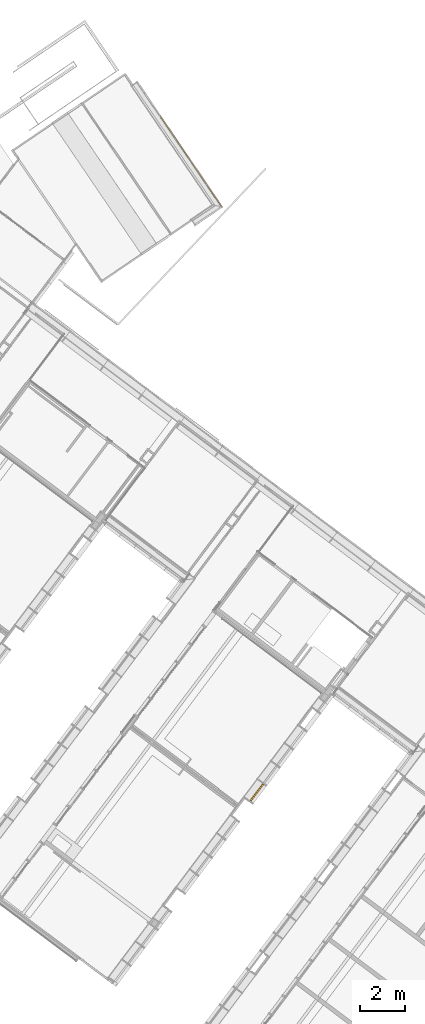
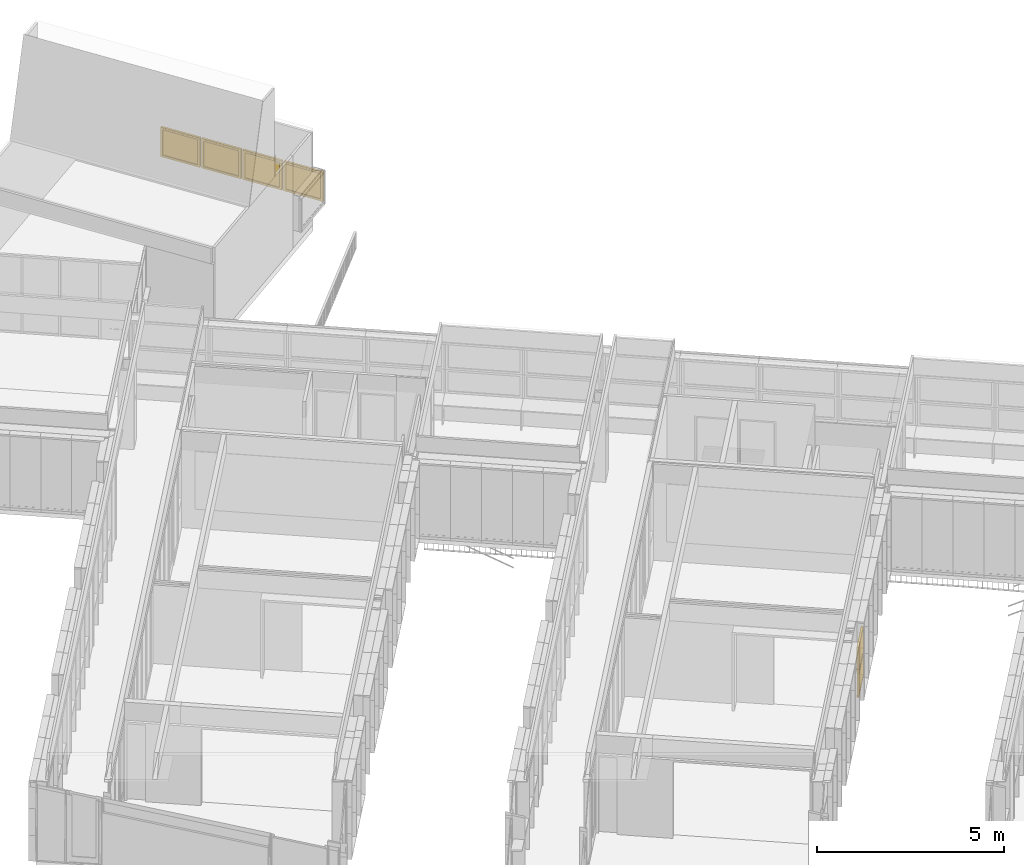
# One storey, part 207 of 243: 6 windows, 2 elements without a shape of their own.
"""IFC2X3 building model written with IfcOpenShell, lengths in metres."""

import ifcopenshell
import ifcopenshell.guid

model = None  # the IFC model being written
_history = None  # IfcOwnerHistory: only IFC2X3 demands one
_inside = {}  # id of a spatial element -> (the spatial element, [elements in it])
_under = {}  # id of a project, library or spatial element -> (it, [spatial elements below it])
_declared = {}  # id of a project -> (the project, [libraries it declares])
_typed = {}  # id of a type object -> (the type object, [elements of that type])
_made_of = {}  # id of a material, layer set ... -> (it, [elements and type objects made of it])


def new_model(schema):
    """Start an empty IFC model of exactly this schema.

    Asked for "IFC4X3", IfcOpenShell would pick the latest addendum, in which some entities
    have other attributes; the version numbers below select the first issue.
    IFC2X3 requires an IfcOwnerHistory on every rooted entity: one is made here for all.
    """
    global model, _history
    if schema == "IFC4X3":
        model = ifcopenshell.file(schema_version=(4, 3, 0, 0))
    else:
        model = ifcopenshell.file(schema=schema)
    _inside.clear()
    _under.clear()
    _declared.clear()
    _typed.clear()
    _made_of.clear()
    _history = None
    if model.schema == "IFC2X3":
        org = make("IfcOrganization", Name="unknown")
        user = make(
            "IfcPersonAndOrganization",
            ThePerson=make("IfcPerson", FamilyName="unknown"),
            TheOrganization=org,
        )
        app = make(
            "IfcApplication",
            ApplicationDeveloper=org,
            Version="unknown",
            ApplicationFullName="unknown",
            ApplicationIdentifier="unknown",
        )
        _history = make(
            "IfcOwnerHistory",
            OwningUser=user,
            OwningApplication=app,
            ChangeAction="ADDED",
            CreationDate=0,
        )
    return model


def make(cls, **values):
    """One entity of the class cls with the attributes given. An attribute that is None is left unset."""
    return model.create_entity(
        cls, **{name: value for name, value in values.items() if value is not None}
    )


def entity(cls, *values):
    """Any entity or typed value of the class cls, its attributes in the order of the schema. None: left unset."""
    e = model.create_entity(cls)
    for i, value in enumerate(values):
        if value is not None:
            e[i] = value
    return e


def rooted(cls, **values):
    """An entity with a GlobalId (a new one), such as an element, a storey or a relation."""
    return make(cls, GlobalId=ifcopenshell.guid.new(), OwnerHistory=_history, **values)


def si_unit(unit_type, name, prefix=None):
    """IfcSIUnit, for example si_unit("LENGTHUNIT", "METRE", prefix="MILLI")."""
    return make("IfcSIUnit", UnitType=unit_type, Prefix=prefix, Name=name)


def converted_unit(unit_type, name, factor, base, dimensions=None, offset=None):
    """IfcConversionBasedUnit, such as the inch: factor (a typed value) times the base unit."""
    return make(
        "IfcConversionBasedUnit"
        if offset is None
        else "IfcConversionBasedUnitWithOffset",
        ConversionOffset=offset,
        Dimensions=None
        if dimensions is None
        else entity("IfcDimensionalExponents", *dimensions),
        UnitType=unit_type,
        Name=name,
        ConversionFactor=make(
            "IfcMeasureWithUnit", ValueComponent=factor, UnitComponent=base
        ),
    )


def derived_unit(unit_type, elements):
    """IfcDerivedUnit: a product of units, each with its exponent."""
    return make(
        "IfcDerivedUnit",
        Elements=[
            make("IfcDerivedUnitElement", Unit=unit, Exponent=power)
            for unit, power in elements
        ],
        UnitType=unit_type,
    )


def assignment(units):
    """IfcUnitAssignment: the units of a project."""
    return None if units is None else make("IfcUnitAssignment", Units=units)


def point(xyz):
    """IfcCartesianPoint."""
    return None if xyz is None else make("IfcCartesianPoint", Coordinates=xyz)


def direction(xyz):
    """IfcDirection."""
    return None if xyz is None else make("IfcDirection", DirectionRatios=xyz)


def frame(location, z_axis=None, x_axis=None):
    """IfcAxis2Placement3D, a coordinate frame: its origin and axes. An axis left out is left unset."""
    return make(
        "IfcAxis2Placement3D",
        Location=point(location),
        Axis=direction(z_axis),
        RefDirection=direction(x_axis),
    )


def origin():
    """The frame at (0, 0, 0) with its axes left unset."""
    return frame((0.0, 0.0, 0.0))


def place(relative_to, where):
    """IfcLocalPlacement: puts the frame where relative to a parent placement (None: the world)."""
    return make(
        "IfcLocalPlacement", PlacementRelTo=relative_to, RelativePlacement=where
    )


def context(
    kind, dimensions, precision=None, world=None, true_north=None, identifier=None
):
    """IfcGeometricRepresentationContext, for example the 3D "Model" context."""
    return make(
        "IfcGeometricRepresentationContext",
        ContextIdentifier=identifier,
        ContextType=kind,
        CoordinateSpaceDimension=dimensions,
        Precision=precision,
        WorldCoordinateSystem=world,
        TrueNorth=true_north,
    )


def subcontext(parent, identifier, kind, view, scale=None):
    """IfcGeometricRepresentationSubContext, for example "Body" below "Model"."""
    return make(
        "IfcGeometricRepresentationSubContext",
        ContextIdentifier=identifier,
        ContextType=kind,
        ParentContext=parent,
        TargetScale=scale,
        TargetView=view,
    )


def project(units=None, contexts=None):
    """IfcProject with its units and contexts."""
    return rooted(
        "IfcProject",
        Name="project",
        RepresentationContexts=contexts,
        UnitsInContext=assignment(units),
    )


def spatial(cls, under=None, at=None, **own):
    """A site, building, storey or space (cls), placed at a placement, below another one or the project."""
    s = rooted(cls, ObjectPlacement=at, **own)
    if under is not None:
        _under.setdefault(under.id(), (under, []))[1].append(s)
    return s


def faces_of(points, faces, orient=None, outer=None):
    """IfcFace entities. A face is a list of loops; a loop is a list of indices into points, from 0.

    orient and outer hold one flag for each loop. By default every Orientation is true, the
    first loop of a face is its IfcFaceOuterBound and the others are IfcFaceBound.
    """
    made = []
    for i, loops in enumerate(faces):
        bounds = []
        for j, loop in enumerate(loops):
            is_outer = j == 0 if outer is None else outer[i][j]
            bounds.append(
                make(
                    "IfcFaceOuterBound" if is_outer else "IfcFaceBound",
                    Bound=make("IfcPolyLoop", Polygon=[points[k] for k in loop]),
                    Orientation=True if orient is None else orient[i][j],
                )
            )
        made.append(make("IfcFace", Bounds=bounds))
    return made


def faceted_brep(points, faces, orient=None, outer=None, voids=None):
    """IfcFacetedBrep: a solid bounded by flat faces; with voids (closed shells), ...WithVoids."""
    shared = [point(p) for p in points]
    hull = make("IfcClosedShell", CfsFaces=faces_of(shared, faces, orient, outer))
    if voids is None:
        return make("IfcFacetedBrep", Outer=hull)
    return make(
        "IfcFacetedBrepWithVoids",
        Outer=hull,
        Voids=[
            make(cls, CfsFaces=faces_of(shared, fs, o, b)) for cls, fs, o, b in voids
        ],
    )


def shape(context_of_items, identifier, shape_type, items):
    """IfcShapeRepresentation: the items that make up one representation, for example the "Body"."""
    return make(
        "IfcShapeRepresentation",
        ContextOfItems=context_of_items,
        RepresentationIdentifier=identifier,
        RepresentationType=shape_type,
        Items=items,
    )


def source(mapping_origin, context_of_items, identifier, shape_type, items):
    """IfcRepresentationMap: a shape defined once, which mapped items show again and again."""
    return make(
        "IfcRepresentationMap",
        MappingOrigin=mapping_origin,
        MappedRepresentation=shape(context_of_items, identifier, shape_type, items),
    )


def transform(
    local_origin,
    x_axis=None,
    y_axis=None,
    z_axis=None,
    scale=None,
    scale2=None,
    scale3=None,
    uniform=True,
):
    """IfcCartesianTransformationOperator3D, or its non-uniform kind. x_axis, y_axis, z_axis: its Axis1, 2, 3."""
    if uniform:
        return make(
            "IfcCartesianTransformationOperator3D",
            Axis1=direction(x_axis),
            Axis2=direction(y_axis),
            LocalOrigin=point(local_origin),
            Scale=scale,
            Axis3=direction(z_axis),
        )
    return make(
        "IfcCartesianTransformationOperator3DnonUniform",
        Axis1=direction(x_axis),
        Axis2=direction(y_axis),
        LocalOrigin=point(local_origin),
        Scale=scale,
        Axis3=direction(z_axis),
        Scale2=scale2,
        Scale3=scale3,
    )


def mapped(mapping_source, mapping_target):
    """IfcMappedItem: shows the shape of a source again, moved by a transform."""
    return make(
        "IfcMappedItem", MappingSource=mapping_source, MappingTarget=mapping_target
    )


def material(Name=None, Category=None):
    """IfcMaterial."""
    return make("IfcMaterial", Name=Name, Category=Category)


def material_list(materials):
    """IfcMaterialList."""
    return make("IfcMaterialList", Materials=materials)


def made_of(thing, what):
    """Note that an element or type object is made of a material, layer set ...; save() writes the relation."""
    if what is not None:
        _made_of.setdefault(what.id(), (what, []))[1].append(thing)
    return thing


def type_object(cls, material=None, **own):
    """A type object (cls), such as IfcWallType, which elements share."""
    return made_of(rooted(cls, **own), material)


def type_shapes(of_type, sources):
    """Give a type object the sources (RepresentationMaps) that its elements show as mapped items."""
    of_type.RepresentationMaps = sources


def element(
    cls,
    number,
    at=None,
    inside=None,
    cuts=None,
    type_object=None,
    material=None,
    context=None,
    identifier="Body",
    shape_type=None,
    held_by="IfcProductDefinitionShape",
    body=None,
    shapes=None,
    **own,
):
    """One element of the class cls, such as IfcWall. Its Tag is "e" and its number.

    at: its placement. inside: the storey or other place that contains it. cuts: it is an
    opening in that element (IfcRelVoidsElement). A single representation is given by context,
    identifier, shape_type and body (its items); several are given by shapes. held_by: the class
    of the entity that holds the representations. save() writes the other relations.
    """
    e = rooted(cls, Tag="e%d" % number, ObjectPlacement=at, **own)
    if body is not None:
        shapes = [shape(context, identifier, shape_type, body)]
    if shapes is not None:
        e.Representation = make(held_by, Representations=shapes)
    if inside is not None:
        _inside.setdefault(inside.id(), (inside, []))[1].append(e)
    if cuts is not None:
        rooted(
            "IfcRelVoidsElement", RelatingBuildingElement=cuts, RelatedOpeningElement=e
        )
    if type_object is not None:
        _typed.setdefault(type_object.id(), (type_object, []))[1].append(e)
    return made_of(e, material)


def aggregate(whole, parts):
    """IfcRelAggregates: a whole, such as a stair, and the parts it consists of."""
    return rooted("IfcRelAggregates", RelatingObject=whole, RelatedObjects=parts)


def save(model, path):
    """Write the relations noted so far, then the file.

    IfcRelAggregates (storeys below a building ...), IfcRelContainedInSpatialStructure (elements
    in a storey), IfcRelDefinesByType, IfcRelAssociatesMaterial and IfcRelDeclares: one each for
    every whole, place, type object, material and project.
    """
    for whole, parts in _under.values():
        aggregate(whole, parts)
    for where, things in _inside.values():
        rooted(
            "IfcRelContainedInSpatialStructure",
            RelatedElements=things,
            RelatingStructure=where,
        )
    for kind, things in _typed.values():
        rooted("IfcRelDefinesByType", RelatedObjects=things, RelatingType=kind)
    for what, things in _made_of.values():
        rooted("IfcRelAssociatesMaterial", RelatedObjects=things, RelatingMaterial=what)
    for by, libraries in _declared.values():
        rooted("IfcRelDeclares", RelatingContext=by, RelatedDefinitions=libraries)
    model.write(path)


model = new_model("IFC2X3")

# Units and contexts
model_context = context("Model", 3, precision=1e-05, world=origin(), true_north=direction((6.123031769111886e-17, 1.0)))
body_context = subcontext(model_context, "Body", "Model", "MODEL_VIEW")
ifc_project = project(units=[si_unit("LENGTHUNIT", "METRE"), si_unit("AREAUNIT", "SQUARE_METRE"), si_unit("VOLUMEUNIT", "CUBIC_METRE"), converted_unit("PLANEANGLEUNIT", "DEGREE", entity("IfcRatioMeasure", 0.017453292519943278), si_unit("PLANEANGLEUNIT", "RADIAN"), dimensions=[0, 0, 0, 0, 0, 0, 0]), si_unit("MASSUNIT", "GRAM", prefix="KILO"), derived_unit("MASSDENSITYUNIT", [(si_unit("MASSUNIT", "GRAM", prefix="KILO"), 1), (si_unit("LENGTHUNIT", "METRE"), -3)]), derived_unit("IONCONCENTRATIONUNIT", [(si_unit("MASSUNIT", "GRAM", prefix="KILO"), 1), (si_unit("LENGTHUNIT", "METRE"), -3)]), derived_unit("MOMENTOFINERTIAUNIT", [(si_unit("LENGTHUNIT", "METRE"), 4)]), si_unit("TIMEUNIT", "SECOND"), si_unit("FREQUENCYUNIT", "HERTZ"), si_unit("THERMODYNAMICTEMPERATUREUNIT", "DEGREE_CELSIUS"), derived_unit("THERMALTRANSMITTANCEUNIT", [(si_unit("MASSUNIT", "GRAM", prefix="KILO"), 1), (si_unit("THERMODYNAMICTEMPERATUREUNIT", "KELVIN"), -1), (si_unit("TIMEUNIT", "SECOND"), -3)]), derived_unit("THERMALCONDUCTANCEUNIT", [(si_unit("MASSUNIT", "GRAM", prefix="KILO"), 1), (si_unit("THERMODYNAMICTEMPERATUREUNIT", "KELVIN"), -1), (si_unit("TIMEUNIT", "SECOND"), -3), (si_unit("LENGTHUNIT", "METRE"), 1)]), derived_unit("VOLUMETRICFLOWRATEUNIT", [(si_unit("LENGTHUNIT", "METRE"), 3), (si_unit("TIMEUNIT", "SECOND"), -1)]), derived_unit("MASSFLOWRATEUNIT", [(si_unit("MASSUNIT", "GRAM", prefix="KILO"), 1), (si_unit("TIMEUNIT", "SECOND"), -1)]), derived_unit("ROTATIONALFREQUENCYUNIT", [(si_unit("TIMEUNIT", "SECOND"), -1)]), si_unit("ELECTRICCURRENTUNIT", "AMPERE"), si_unit("ELECTRICVOLTAGEUNIT", "VOLT"), si_unit("POWERUNIT", "WATT"), si_unit("FORCEUNIT", "NEWTON", prefix="KILO"), si_unit("ILLUMINANCEUNIT", "LUX"), si_unit("LUMINOUSFLUXUNIT", "LUMEN"), si_unit("LUMINOUSINTENSITYUNIT", "CANDELA"), derived_unit("USERDEFINED", [(si_unit("MASSUNIT", "GRAM", prefix="KILO"), -1), (si_unit("LENGTHUNIT", "METRE"), -2), (si_unit("TIMEUNIT", "SECOND"), 3), (si_unit("LUMINOUSFLUXUNIT", "LUMEN"), 1)]), derived_unit("USERDEFINED", [(si_unit("MASSUNIT", "GRAM", prefix="KILO"), 1), (si_unit("TIMEUNIT", "SECOND"), -3), (si_unit("LENGTHUNIT", "METRE"), 3), (si_unit("ELECTRICCURRENTUNIT", "AMPERE"), -2)]), derived_unit("SOUNDPOWERUNIT", [(si_unit("MASSUNIT", "GRAM", prefix="KILO"), 1), (si_unit("TIMEUNIT", "SECOND"), -3), (si_unit("LENGTHUNIT", "METRE"), 2)]), derived_unit("SOUNDPRESSUREUNIT", [(si_unit("MASSUNIT", "GRAM", prefix="KILO"), 1), (si_unit("LENGTHUNIT", "METRE"), -1), (si_unit("TIMEUNIT", "SECOND"), -2)]), derived_unit("LINEARVELOCITYUNIT", [(si_unit("LENGTHUNIT", "METRE"), 1), (si_unit("TIMEUNIT", "SECOND"), -1)]), si_unit("PRESSUREUNIT", "PASCAL"), derived_unit("USERDEFINED", [(si_unit("MASSUNIT", "GRAM", prefix="KILO"), 1), (si_unit("LENGTHUNIT", "METRE"), -2), (si_unit("TIMEUNIT", "SECOND"), -2)]), derived_unit("LINEARFORCEUNIT", [(si_unit("MASSUNIT", "GRAM", prefix="KILO"), 1), (si_unit("TIMEUNIT", "SECOND"), -2)]), derived_unit("PLANARFORCEUNIT", [(si_unit("MASSUNIT", "GRAM", prefix="KILO"), 1), (si_unit("LENGTHUNIT", "METRE"), -1), (si_unit("TIMEUNIT", "SECOND"), -2)]), derived_unit("SPECIFICHEATCAPACITYUNIT", [(si_unit("THERMODYNAMICTEMPERATUREUNIT", "KELVIN"), -1), (si_unit("LENGTHUNIT", "METRE"), 2), (si_unit("TIMEUNIT", "SECOND"), -2)]), derived_unit("HEATINGVALUEUNIT", [(si_unit("LENGTHUNIT", "METRE"), 2), (si_unit("TIMEUNIT", "SECOND"), -2)]), derived_unit("VAPORPERMEABILITYUNIT", [(si_unit("LENGTHUNIT", "METRE"), -1), (si_unit("TIMEUNIT", "SECOND"), 1)]), derived_unit("DYNAMICVISCOSITYUNIT", [(si_unit("MASSUNIT", "GRAM", prefix="KILO"), 1), (si_unit("TIMEUNIT", "SECOND"), -1), (si_unit("LENGTHUNIT", "METRE"), -1)]), derived_unit("THERMALEXPANSIONCOEFFICIENTUNIT", [(si_unit("THERMODYNAMICTEMPERATUREUNIT", "KELVIN"), -1)]), derived_unit("MODULUSOFELASTICITYUNIT", [(si_unit("MASSUNIT", "GRAM", prefix="KILO"), 1), (si_unit("LENGTHUNIT", "METRE"), -1), (si_unit("TIMEUNIT", "SECOND"), -2)]), derived_unit("ISOTHERMALMOISTURECAPACITYUNIT", [(si_unit("LENGTHUNIT", "METRE"), 3), (si_unit("MASSUNIT", "GRAM", prefix="KILO"), -1)]), derived_unit("MOISTUREDIFFUSIVITYUNIT", [(si_unit("TIMEUNIT", "SECOND"), -1), (si_unit("LENGTHUNIT", "METRE"), 2)])], contexts=[model_context])

# Site, building, storey
site_placement = place(None, frame((0.0, 0.0, 235.0), z_axis=(0.0, 0.0, 1.0), x_axis=(-0.7996477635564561, 0.6004693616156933, 0.0)))
site = spatial("IfcSite", under=ifc_project, at=site_placement, Name="Default", CompositionType="ELEMENT")
building_placement = place(site_placement, origin())
building = spatial("IfcBuilding", under=site, at=building_placement, CompositionType="ELEMENT")
storey_placement = place(building_placement, origin())
storey = spatial("IfcBuildingStorey", under=building, at=storey_placement, Name="P0- Escola", CompositionType="ELEMENT", Elevation=0.0)

# Curtain wall, windows
curtain_wall_type_1 = type_object("IfcCurtainWallType", Name="Muro cortina:MC- EXT- MC2", PredefinedType="NOTDEFINED")
curtain_wall_1_placement = place(storey_placement, origin())
curtain_wall_1 = element("IfcCurtainWall", 1, at=curtain_wall_1_placement, inside=storey, type_object=curtain_wall_type_1, Name="Muro cortina:MC- EXT- MC2", ObjectType="Muro cortina:MC- EXT- MC2")
ifc_material_1 = material(Name="_Vidre")
ifc_material_2 = material(Name="_Alumini- T1- Perfil")
ifc_material_list = material_list([ifc_material_1, ifc_material_2])
window_style_1 = type_object("IfcWindowStyle", Name="MC- Alu- Conjunt vidre fix- 62x60 cm:MC- Alu- Conjunt vidre fix- 62x60 cm", ConstructionType="NOTDEFINED", OperationType="NOTDEFINED", ParameterTakesPrecedence=False, Sizeable=False, material=ifc_material_list)
shared_shape_1 = source(origin(), body_context, "Body", "Brep", [
    faceted_brep([(0.4361932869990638, -0.007600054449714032, 0.048806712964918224), (0.4361932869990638, -0.03160022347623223, 0.048806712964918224), (-0.4361932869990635, -0.03160022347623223, 0.048806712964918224), (-0.4361932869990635, -0.007600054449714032, 0.048806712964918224), (0.4361932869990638, -0.007600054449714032, 0.7387000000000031), (-0.4361932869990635, -0.007600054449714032, 0.7387000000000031), (-0.4361932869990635, -0.03160022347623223, 0.7387000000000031), (0.4361932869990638, -0.03160022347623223, 0.7387000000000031)], [[[0, 1, 2, 3]], [[4, 0, 3, 5]], [[5, 3, 2, 6]], [[6, 2, 1, 7]], [[7, 1, 0, 4]], [[4, 5, 6, 7]]]),
    faceted_brep([(0.48499999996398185, -0.05999999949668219, 0.7877000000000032), (0.48499999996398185, -0.05999999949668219, 0.0), (0.48499999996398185, 0.0, 0.0), (0.48499999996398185, 0.0, 0.787700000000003), (-0.48499999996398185, 0.0, 0.7877000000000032), (-0.48499999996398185, 0.0, 0.0), (0.4221931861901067, 0.0, 0.7248931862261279), (-0.42219318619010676, 0.0, 0.724893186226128), (-0.4221931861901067, 0.0, 0.0628068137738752), (0.4221931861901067, 0.0, 0.06280681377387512), (-0.48499999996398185, -0.05999999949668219, 0.0), (-0.48499999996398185, -0.05999999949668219, 0.7877000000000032), (-0.42219603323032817, -0.05999999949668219, 0.7248960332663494), (0.42219603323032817, -0.05999999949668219, 0.7248960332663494), (0.42219603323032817, -0.05999999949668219, 0.0628039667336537), (-0.42219603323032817, -0.05999999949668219, 0.0628039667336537), (0.4221960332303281, -0.03160022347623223, 0.7248960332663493), (0.42219603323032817, -0.03160022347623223, 0.0628039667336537), (-0.42219603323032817, -0.03160022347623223, 0.06280396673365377), (-0.42219603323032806, -0.03160022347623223, 0.7248960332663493), (-0.43619328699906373, -0.03160022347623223, 0.738893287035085), (0.43619328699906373, -0.03160022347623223, 0.738893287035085), (0.43619328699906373, -0.03160022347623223, 0.048806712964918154), (-0.43619328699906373, -0.03160022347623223, 0.04880671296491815), (0.43619328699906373, -0.007600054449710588, 0.738893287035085), (0.43619328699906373, -0.007600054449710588, 0.04880671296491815), (-0.43619328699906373, -0.007600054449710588, 0.048806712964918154), (-0.43619328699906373, -0.007600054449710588, 0.738893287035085), (-0.42219318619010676, -0.007600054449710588, 0.724893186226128), (0.42219318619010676, -0.007600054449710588, 0.724893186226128), (0.42219318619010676, -0.007600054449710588, 0.06280681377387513), (-0.42219318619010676, -0.007600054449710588, 0.06280681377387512)], [[[0, 1, 2, 3]], [[4, 3, 2, 5], [6, 7, 8, 9]], [[1, 10, 5, 2]], [[0, 11, 10, 1], [12, 13, 14, 15]], [[16, 17, 14, 13]], [[17, 18, 15, 14]], [[16, 19, 18, 17], [20, 21, 22, 23]], [[24, 25, 22, 21]], [[25, 26, 23, 22]], [[24, 27, 26, 25], [28, 29, 30, 31]], [[6, 9, 30, 29]], [[9, 8, 31, 30]], [[10, 11, 4, 5]], [[18, 19, 12, 15]], [[26, 27, 20, 23]], [[8, 7, 28, 31]], [[11, 0, 3, 4]], [[19, 16, 13, 12]], [[27, 24, 21, 20]], [[7, 6, 29, 28]]], outer=[[True], [True, False], [True], [True, False], [True], [True], [False, True], [True], [True], [True, False], [True], [True], [True], [True], [True], [True], [True], [True], [True], [True]]),
])
type_shapes(window_style_1, [shared_shape_1])
window_1_placement = place(curtain_wall_1_placement, frame((41.04514768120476, -30.915191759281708, 0.03229999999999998), z_axis=(0.0, 0.0, 1.0), x_axis=(0.0, 1.0, 0.0)))
window_1 = element("IfcWindow", 2, at=window_1_placement, type_object=window_style_1, material=ifc_material_list, Name="MC- Alu- Conjunt vidre fix- 62x60 cm:MC- Alu- Conjunt vidre fix- 62x60 cm", ObjectType="MC- Alu- Conjunt vidre fix- 62x60 cm:MC- Alu- Conjunt vidre fix- 62x60 cm", OverallHeight=0.7877000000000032, OverallWidth=0.9699999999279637, context=body_context, shape_type="MappedRepresentation", body=[
    mapped(shared_shape_1, transform((0.0, 0.0, 0.0), scale=1.0)),
])
window_style_2 = type_object("IfcWindowStyle", Name="MC- Alu- Conjunt finestra basculant- 68x68 cm:MC- Alu- Conjunt finestra basculant- 68x68 cm", ConstructionType="NOTDEFINED", OperationType="NOTDEFINED", ParameterTakesPrecedence=False, Sizeable=False, material=ifc_material_list)
shared_shape_2 = source(origin(), body_context, "Body", "Brep", [
    faceted_brep([(0.43291170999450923, -0.03559830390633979, 0.051999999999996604), (-0.43291170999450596, -0.03559830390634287, 0.051999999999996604), (-0.43291170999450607, -0.011598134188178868, 0.051999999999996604), (0.43291170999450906, -0.011598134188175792, 0.051999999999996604), (0.43291170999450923, -0.035598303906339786, 0.8228027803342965), (0.43291170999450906, -0.011598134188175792, 0.8228027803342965), (-0.43291170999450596, -0.011598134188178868, 0.8228027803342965), (-0.43291170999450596, -0.03559830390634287, 0.8228027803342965)], [[[0, 1, 2, 3]], [[4, 0, 3, 5]], [[5, 3, 2, 6]], [[6, 2, 1, 7]], [[7, 1, 0, 4]], [[4, 5, 6, 7]]]),
    faceted_brep([(-0.4172108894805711, -0.009998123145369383, 0.8071019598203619), (-0.4172108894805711, -0.00999812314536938, 0.06789804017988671), (-0.4172108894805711, -0.007998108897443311, 0.06789804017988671), (-0.4172108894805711, -0.007998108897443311, 0.8071019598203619), (-0.44610892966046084, -0.007998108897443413, 0.8360000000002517), (0.44610892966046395, -0.007998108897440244, 0.8360000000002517), (0.44610892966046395, -0.007998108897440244, 0.03899999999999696), (-0.44610892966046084, -0.007998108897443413, 0.03899999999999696), (0.4172108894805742, -0.007998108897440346, 0.8071019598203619), (0.4172108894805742, -0.007998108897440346, 0.06789804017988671), (0.4172108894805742, -0.009998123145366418, 0.06789804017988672), (0.4172108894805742, -0.009998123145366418, 0.8071019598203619), (0.4329117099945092, -0.00999812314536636, 0.8228027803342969), (-0.43291170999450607, -0.009998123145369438, 0.8228027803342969), (-0.43291170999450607, -0.009998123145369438, 0.05219721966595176), (0.4329117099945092, -0.00999812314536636, 0.052197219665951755), (-0.4329117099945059, -0.04079986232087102, 0.8228027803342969), (-0.4329117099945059, -0.04079986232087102, 0.052197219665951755), (0.4329117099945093, -0.04079986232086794, 0.05219721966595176), (0.4329117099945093, -0.04079986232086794, 0.8228027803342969), (0.41721088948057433, -0.040799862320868, 0.8071019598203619), (-0.41721088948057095, -0.04079986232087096, 0.8071019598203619), (-0.41721088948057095, -0.04079986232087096, 0.06789804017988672), (0.41721088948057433, -0.040799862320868, 0.06789804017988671), (-0.4172108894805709, -0.06800005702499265, 0.8071019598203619), (-0.4172108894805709, -0.06800005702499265, 0.06789804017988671), (0.4172108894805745, -0.0680000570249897, 0.06789804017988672), (0.4172108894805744, -0.0680000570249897, 0.8071019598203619), (0.4636128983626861, -0.06800005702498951, 0.8535039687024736), (-0.4636128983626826, -0.06800005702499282, 0.8535039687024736), (-0.4636128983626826, -0.06800005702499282, 0.021496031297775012), (0.4636128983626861, -0.06800005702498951, 0.021496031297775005), (-0.4636128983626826, -0.0645000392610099, 0.8535039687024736), (-0.4636128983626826, -0.06450003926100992, 0.021496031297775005), (0.4636128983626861, -0.06450003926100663, 0.021496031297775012), (0.4636128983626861, -0.06450003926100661, 0.8535039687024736), (0.44610892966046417, -0.06450003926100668, 0.8360000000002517), (-0.4461089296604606, -0.06450003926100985, 0.8360000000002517), (-0.4461089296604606, -0.06450003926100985, 0.03899999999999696), (0.44610892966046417, -0.06450003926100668, 0.038999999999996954)], [[[0, 1, 2, 3]], [[4, 5, 6, 7], [8, 3, 2, 9]], [[1, 10, 9, 2]], [[0, 11, 10, 1], [12, 13, 14, 15]], [[16, 17, 14, 13]], [[17, 18, 15, 14]], [[16, 19, 18, 17], [20, 21, 22, 23]], [[24, 25, 22, 21]], [[25, 26, 23, 22]], [[24, 27, 26, 25], [28, 29, 30, 31]], [[32, 33, 30, 29]], [[33, 34, 31, 30]], [[32, 35, 34, 33], [36, 37, 38, 39]], [[4, 7, 38, 37]], [[7, 6, 39, 38]], [[10, 11, 8, 9]], [[18, 19, 12, 15]], [[26, 27, 20, 23]], [[34, 35, 28, 31]], [[6, 5, 36, 39]], [[11, 0, 3, 8]], [[19, 16, 13, 12]], [[27, 24, 21, 20]], [[35, 32, 29, 28]], [[5, 4, 37, 36]]], outer=[[True], [True, False], [True], [False, True], [True], [True], [True, False], [True], [True], [False, True], [True], [True], [True, False], [True], [True], [True], [True], [True], [True], [True], [True], [True], [True], [True], [True]]),
    faceted_brep([(0.42219318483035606, 0.0, 0.8121931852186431), (0.42219318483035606, 0.0, 0.06280681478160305), (0.42219318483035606, -0.0040000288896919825, 0.06280681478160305), (0.42219318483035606, -0.0040000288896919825, 0.8121931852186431), (-0.42219318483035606, -0.0040000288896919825, 0.8121931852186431), (-0.42219318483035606, -0.0040000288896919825, 0.06280681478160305), (0.4575998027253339, -0.0040000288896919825, 0.8475998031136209), (-0.4575998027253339, -0.0040000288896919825, 0.8475998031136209), (-0.4575998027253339, -0.0040000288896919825, 0.027400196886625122), (0.4575998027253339, -0.0040000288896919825, 0.02740019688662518), (-0.42219318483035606, 0.0, 0.06280681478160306), (-0.42219318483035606, 0.0, 0.8121931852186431), (-0.48499999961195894, 0.0, 0.875000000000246), (0.48499999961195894, 0.0, 0.875000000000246), (0.48499999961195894, 0.0, 0.0), (-0.48499999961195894, 0.0, 0.0), (0.48499999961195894, -0.05999999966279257, 0.875000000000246), (0.48499999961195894, -0.05999999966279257, 0.0), (-0.48499999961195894, -0.05999999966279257, 0.0), (-0.48499999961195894, -0.05999999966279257, 0.875000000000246), (-0.4575998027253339, -0.05999999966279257, 0.8475998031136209), (0.4575998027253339, -0.05999999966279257, 0.8475998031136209), (0.4575998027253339, -0.05999999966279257, 0.027400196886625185), (-0.4575998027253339, -0.05999999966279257, 0.02740019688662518)], [[[0, 1, 2, 3]], [[4, 3, 2, 5], [6, 7, 8, 9]], [[1, 10, 5, 2]], [[0, 11, 10, 1], [12, 13, 14, 15]], [[16, 17, 14, 13]], [[17, 18, 15, 14]], [[16, 19, 18, 17], [20, 21, 22, 23]], [[6, 9, 22, 21]], [[9, 8, 23, 22]], [[10, 11, 4, 5]], [[18, 19, 12, 15]], [[8, 7, 20, 23]], [[11, 0, 3, 4]], [[19, 16, 13, 12]], [[7, 6, 21, 20]]], outer=[[True], [False, True], [True], [False, True], [True], [True], [True, False], [True], [True], [True], [True], [True], [True], [True], [True]]),
])
type_shapes(window_style_2, [shared_shape_2])
window_2_placement = place(curtain_wall_1_placement, frame((41.04514768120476, -30.915191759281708, 0.8200000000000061), z_axis=(0.0, 0.0, 1.0), x_axis=(0.0, 1.0, 0.0)))
window_2 = element("IfcWindow", 3, at=window_2_placement, type_object=window_style_2, material=ifc_material_list, Name="MC- Alu- Conjunt finestra basculant- 68x68 cm:MC- Alu- Conjunt finestra basculant- 68x68 cm", ObjectType="MC- Alu- Conjunt finestra basculant- 68x68 cm:MC- Alu- Conjunt finestra basculant- 68x68 cm", OverallHeight=0.8750000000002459, OverallWidth=0.9699999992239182, context=body_context, shape_type="MappedRepresentation", body=[
    mapped(shared_shape_2, transform((0.0, 0.0, 0.0), scale=1.0)),
])
aggregate(curtain_wall_1, [window_1, window_2])

curtain_wall_type_2 = type_object("IfcCurtainWallType", Name="Muro cortina:MC- EXT- MC7", PredefinedType="NOTDEFINED")
curtain_wall_2_placement = place(storey_placement, origin())
curtain_wall_2 = element("IfcCurtainWall", 4, at=curtain_wall_2_placement, inside=storey, type_object=curtain_wall_type_2, Name="Muro cortina:MC- EXT- MC7", ObjectType="Muro cortina:MC- EXT- MC7")
window_style_3 = type_object("IfcWindowStyle", Name="MC- Alu- Conjunt finestra basculant- 68x68 cm:MC- Alu- Conjunt finestra basculant- 68x68 cm", ConstructionType="NOTDEFINED", OperationType="NOTDEFINED", ParameterTakesPrecedence=False, Sizeable=False, material=ifc_material_list)
shared_shape_3 = source(origin(), body_context, "Body", "Brep", [
    faceted_brep([(0.5319117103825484, -0.03559830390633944, 0.051999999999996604), (-0.531911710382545, -0.035598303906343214, 0.051999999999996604), (-0.5319117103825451, -0.011598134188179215, 0.051999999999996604), (0.5319117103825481, -0.011598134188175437, 0.051999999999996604), (0.5319117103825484, -0.03559830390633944, 0.9153027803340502), (0.5319117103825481, -0.011598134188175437, 0.9153027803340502), (-0.5319117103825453, -0.011598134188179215, 0.9153027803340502), (-0.531911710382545, -0.035598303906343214, 0.9153027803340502)], [[[0, 1, 2, 3]], [[4, 0, 3, 5]], [[5, 3, 2, 6]], [[6, 2, 1, 7]], [[7, 1, 0, 4]], [[4, 5, 6, 7]]]),
    faceted_brep([(-0.5162108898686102, -0.009998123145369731, 0.8996019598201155), (-0.5162108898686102, -0.009998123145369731, 0.06789804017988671), (-0.5162108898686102, -0.007998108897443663, 0.06789804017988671), (-0.5162108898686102, -0.007998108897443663, 0.8996019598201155), (-0.5451089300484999, -0.007998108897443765, 0.9285000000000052), (0.545108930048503, -0.007998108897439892, 0.9285000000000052), (0.545108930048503, -0.007998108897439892, 0.03899999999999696), (-0.5451089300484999, -0.007998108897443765, 0.03899999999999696), (0.5162108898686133, -0.007998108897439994, 0.8996019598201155), (0.5162108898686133, -0.007998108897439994, 0.06789804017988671), (0.5162108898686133, -0.009998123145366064, 0.06789804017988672), (0.5162108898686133, -0.009998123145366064, 0.8996019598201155), (0.5319117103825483, -0.00999812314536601, 0.9153027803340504), (-0.5319117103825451, -0.009998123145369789, 0.9153027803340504), (-0.5319117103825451, -0.009998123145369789, 0.05219721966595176), (0.5319117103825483, -0.00999812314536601, 0.052197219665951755), (-0.531911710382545, -0.04079986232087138, 0.9153027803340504), (-0.5319117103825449, -0.04079986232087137, 0.052197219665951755), (0.5319117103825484, -0.040799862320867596, 0.05219721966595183), (0.5319117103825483, -0.040799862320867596, 0.9153027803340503), (0.5162108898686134, -0.040799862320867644, 0.8996019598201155), (-0.5162108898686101, -0.040799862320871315, 0.8996019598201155), (-0.5162108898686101, -0.040799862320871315, 0.06789804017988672), (0.5162108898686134, -0.040799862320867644, 0.06789804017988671), (-0.51621088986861, -0.06800005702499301, 0.8996019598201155), (-0.51621088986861, -0.06800005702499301, 0.06789804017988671), (0.5162108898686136, -0.06800005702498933, 0.06789804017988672), (0.5162108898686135, -0.06800005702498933, 0.8996019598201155), (0.5626128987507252, -0.06800005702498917, 0.9460039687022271), (-0.5626128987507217, -0.06800005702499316, 0.9460039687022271), (-0.5626128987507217, -0.06800005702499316, 0.021496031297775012), (0.5626128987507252, -0.06800005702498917, 0.021496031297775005), (-0.5626128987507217, -0.06450003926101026, 0.9460039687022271), (-0.5626128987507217, -0.06450003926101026, 0.021496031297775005), (0.5626128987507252, -0.06450003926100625, 0.02149603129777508), (0.5626128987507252, -0.06450003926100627, 0.9460039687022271), (0.5451089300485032, -0.06450003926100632, 0.9285000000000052), (-0.5451089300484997, -0.0645000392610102, 0.9285000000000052), (-0.5451089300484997, -0.0645000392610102, 0.03899999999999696), (0.5451089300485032, -0.06450003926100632, 0.038999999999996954)], [[[0, 1, 2, 3]], [[4, 5, 6, 7], [8, 3, 2, 9]], [[1, 10, 9, 2]], [[0, 11, 10, 1], [12, 13, 14, 15]], [[16, 17, 14, 13]], [[17, 18, 15, 14]], [[16, 19, 18, 17], [20, 21, 22, 23]], [[24, 25, 22, 21]], [[25, 26, 23, 22]], [[24, 27, 26, 25], [28, 29, 30, 31]], [[32, 33, 30, 29]], [[33, 34, 31, 30]], [[32, 35, 34, 33], [36, 37, 38, 39]], [[4, 7, 38, 37]], [[7, 6, 39, 38]], [[10, 11, 8, 9]], [[18, 19, 12, 15]], [[26, 27, 20, 23]], [[34, 35, 28, 31]], [[6, 5, 36, 39]], [[11, 0, 3, 8]], [[19, 16, 13, 12]], [[27, 24, 21, 20]], [[35, 32, 29, 28]], [[5, 4, 37, 36]]], outer=[[True], [True, False], [True], [False, True], [True], [True], [True, False], [True], [True], [False, True], [True], [True], [True, False], [True], [True], [True], [True], [True], [True], [True], [True], [True], [True], [True], [True]]),
    faceted_brep([(0.5211931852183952, 0.0, 0.9046931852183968), (0.5211931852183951, 0.0, 0.06280681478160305), (0.5211931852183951, -0.0040000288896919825, 0.06280681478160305), (0.5211931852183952, -0.0040000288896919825, 0.9046931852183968), (-0.5211931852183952, -0.0040000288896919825, 0.9046931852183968), (-0.5211931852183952, -0.0040000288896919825, 0.06280681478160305), (0.5565998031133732, -0.0040000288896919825, 0.9400998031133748), (-0.556599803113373, -0.0040000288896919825, 0.9400998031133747), (-0.5565998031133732, -0.0040000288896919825, 0.027400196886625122), (0.556599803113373, -0.0040000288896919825, 0.02740019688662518), (-0.5211931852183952, 0.0, 0.06280681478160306), (-0.5211931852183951, 0.0, 0.9046931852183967), (-0.5839999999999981, 0.0, 0.9674999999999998), (0.5839999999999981, 0.0, 0.9674999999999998), (0.5839999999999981, 0.0, 0.0), (-0.5839999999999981, 0.0, 0.0), (0.5839999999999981, -0.05999999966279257, 0.9674999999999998), (0.583999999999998, -0.05999999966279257, 0.0), (-0.5839999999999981, -0.05999999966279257, 0.0), (-0.583999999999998, -0.05999999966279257, 0.9674999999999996), (-0.556599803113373, -0.05999999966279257, 0.9400998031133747), (0.556599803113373, -0.05999999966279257, 0.9400998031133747), (0.556599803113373, -0.05999999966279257, 0.027400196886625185), (-0.556599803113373, -0.05999999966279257, 0.02740019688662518)], [[[0, 1, 2, 3]], [[4, 3, 2, 5], [6, 7, 8, 9]], [[1, 10, 5, 2]], [[0, 11, 10, 1], [12, 13, 14, 15]], [[16, 17, 14, 13]], [[17, 18, 15, 14]], [[16, 19, 18, 17], [20, 21, 22, 23]], [[6, 9, 22, 21]], [[9, 8, 23, 22]], [[10, 11, 4, 5]], [[18, 19, 12, 15]], [[8, 7, 20, 23]], [[11, 0, 3, 4]], [[19, 16, 13, 12]], [[7, 6, 21, 20]]], outer=[[True], [False, True], [True], [False, True], [True], [True], [True, False], [True], [True], [True], [True], [True], [True], [True], [True]]),
])
type_shapes(window_style_3, [shared_shape_3])
window_3_placement = place(curtain_wall_2_placement, frame((58.47314232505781, -50.98158165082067, 0.685), z_axis=(0.0, 0.0, 1.0), x_axis=(-0.9460037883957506, 0.3241555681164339, 0.0)))
window_3 = element("IfcWindow", 5, at=window_3_placement, type_object=window_style_3, material=ifc_material_list, Name="MC- Alu- Conjunt finestra basculant- 68x68 cm:MC- Alu- Conjunt finestra basculant- 68x68 cm", ObjectType="MC- Alu- Conjunt finestra basculant- 68x68 cm:MC- Alu- Conjunt finestra basculant- 68x68 cm", OverallHeight=0.9674999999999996, OverallWidth=1.1679999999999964, context=body_context, shape_type="MappedRepresentation", body=[
    mapped(shared_shape_3, transform((0.0, 0.0, 0.0), scale=1.0)),
])
window_4_placement = place(curtain_wall_2_placement, frame((59.625374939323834, -51.37640313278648, 0.685), z_axis=(0.0, 0.0, 1.0), x_axis=(-0.9460037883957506, 0.3241555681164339, 0.0)))
window_4 = element("IfcWindow", 6, at=window_4_placement, type_object=window_style_3, material=ifc_material_list, Name="MC- Alu- Conjunt finestra basculant- 68x68 cm:MC- Alu- Conjunt finestra basculant- 68x68 cm", ObjectType="MC- Alu- Conjunt finestra basculant- 68x68 cm:MC- Alu- Conjunt finestra basculant- 68x68 cm", OverallHeight=0.9674999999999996, OverallWidth=1.1679999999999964, context=body_context, shape_type="MappedRepresentation", body=[
    mapped(shared_shape_3, transform((0.0, 0.0, 0.0), scale=1.0)),
])
window_5_placement = place(curtain_wall_2_placement, frame((60.77760755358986, -51.7712246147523, 0.685), z_axis=(0.0, 0.0, 1.0), x_axis=(-0.9460037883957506, 0.3241555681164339, 0.0)))
window_5 = element("IfcWindow", 7, at=window_5_placement, type_object=window_style_3, material=ifc_material_list, Name="MC- Alu- Conjunt finestra basculant- 68x68 cm:MC- Alu- Conjunt finestra basculant- 68x68 cm", ObjectType="MC- Alu- Conjunt finestra basculant- 68x68 cm:MC- Alu- Conjunt finestra basculant- 68x68 cm", OverallHeight=0.9674999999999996, OverallWidth=1.1679999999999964, context=body_context, shape_type="MappedRepresentation", body=[
    mapped(shared_shape_3, transform((0.0, 0.0, 0.0), scale=1.0)),
])
window_6_placement = place(curtain_wall_2_placement, frame((61.929840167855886, -52.16604609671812, 0.685), z_axis=(0.0, 0.0, 1.0), x_axis=(-0.9460037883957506, 0.3241555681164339, 0.0)))
window_6 = element("IfcWindow", 8, at=window_6_placement, type_object=window_style_3, material=ifc_material_list, Name="MC- Alu- Conjunt finestra basculant- 68x68 cm:MC- Alu- Conjunt finestra basculant- 68x68 cm", ObjectType="MC- Alu- Conjunt finestra basculant- 68x68 cm:MC- Alu- Conjunt finestra basculant- 68x68 cm", OverallHeight=0.9674999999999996, OverallWidth=1.1679999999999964, context=body_context, shape_type="MappedRepresentation", body=[
    mapped(shared_shape_3, transform((0.0, 0.0, 0.0), scale=1.0)),
])
aggregate(curtain_wall_2, [window_3, window_4, window_5, window_6])

save(model, "model.ifc")
